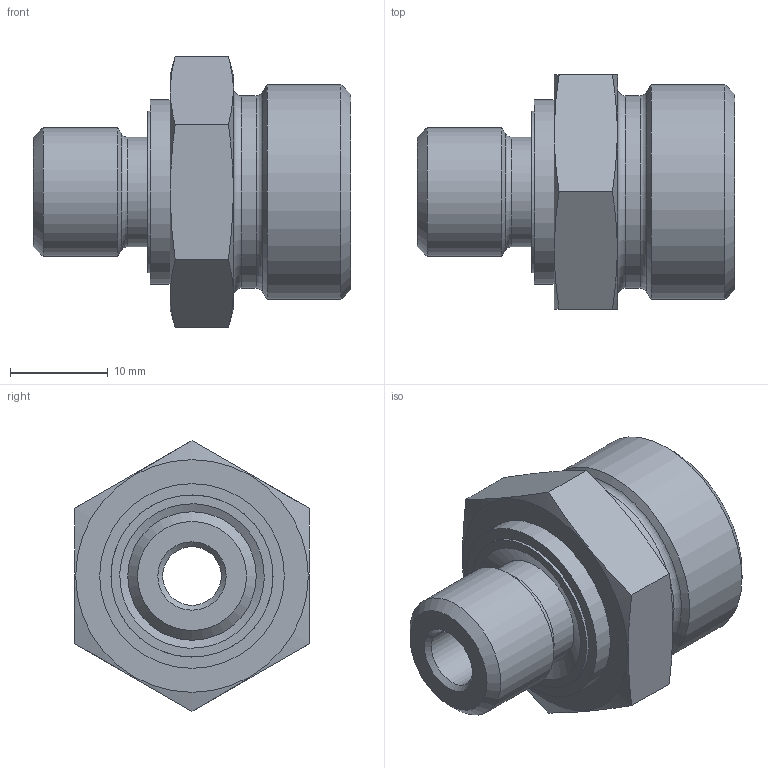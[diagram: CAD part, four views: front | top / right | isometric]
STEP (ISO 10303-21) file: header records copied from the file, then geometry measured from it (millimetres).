
FILE_DESCRIPTION( ( 'Unknown' ), '1' );
FILE_NAME( 'C:/Users/p.nanko/Desktop/3D SR/XGE15LED02.stp', 'Unknown', ( 'Peter Nanko' ), ( 'Armaturen Arndt' ), 'PSStep 14.0', 'Solid Edge ST4', ' ' );
FILE_SCHEMA( ( 'AUTOMOTIVE_DESIGN { 1 0 10303 214 1 1 1 1 }' ) );
Length unit declared in the file: millimetre
Products named in the file (3): Assem1; XGE15LED023; EDRING02
Assembly tree (2 placements, depth 2):
  Assem1
    XGE15LED023
    EDRING02
Bounding box: 32.5 x 24 x 27.71 mm (x, y, z)
Volume: 7483.4 mm3; surface area: 4148 mm2
Topology: 2 solids, 2 shells, 38 faces, 75 edges, 46 vertices
Faces by surface type: plane 15, cylinder 10, cone 9, torus 4
Full cylindrical faces by diameter (mm): 6 x1, 11.2 x1, 11.3 x1, 13.157 x1, 15 x1, 16.6 x2, 18.9 x1, 19.7 x1, 22 x1
Entity records: 1274 total; most frequent: CARTESIAN_POINT 233, DIRECTION 150, ORIENTED_EDGE 98, AXIS2_PLACEMENT_3D 72, EDGE_LOOP 70, FACE_OUTER_BOUND 52, EDGE_CURVE 49, VERTEX_POINT 43
